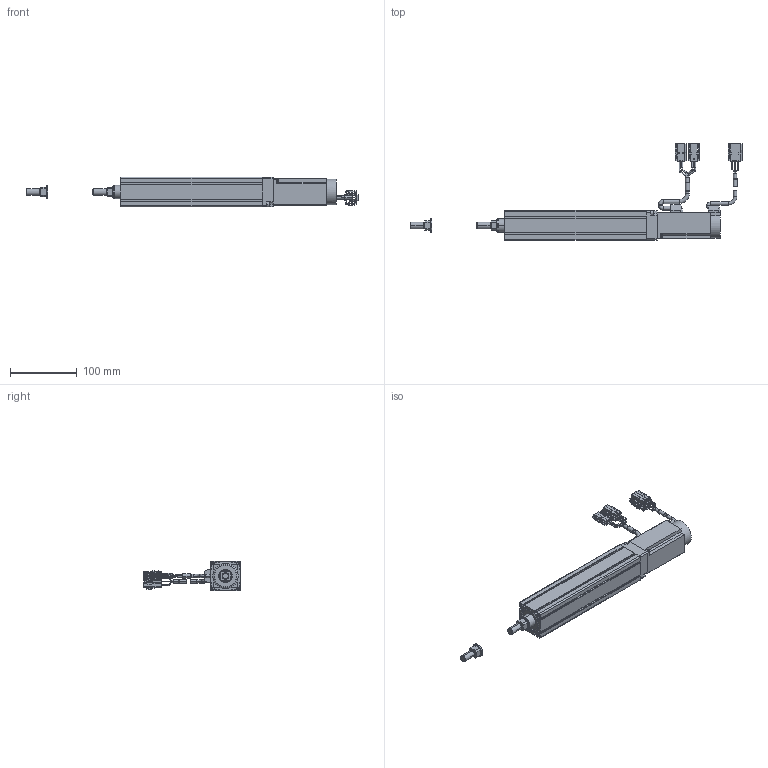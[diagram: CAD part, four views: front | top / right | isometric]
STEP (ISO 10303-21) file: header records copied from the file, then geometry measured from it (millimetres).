
FILE_DESCRIPTION((''),'2;1');
FILE_NAME('BET4D-ST-C_B-10_IGS_PRT','2017-06-18T',(' '),(''),'PRO/ENGINEER BY PARAMETRIC TECHNOLOGY CORPORATION, 2015030','PRO/ENGINEER BY PARAMETRIC TECHNOLOGY CORPORATION, 2015030','');
FILE_SCHEMA(('CONFIG_CONTROL_DESIGN'));
Length unit declared in the file: millimetre
Products named in the file (1): BET4D-ST-C_B-10_IGS_PRT
Bounding box: 499 x 145.7 x 45 mm (x, y, z)
Volume: 478829.5 mm3; surface area: 151830.1 mm2
Topology: 6 solids, 30 shells, 940 faces, 2473 edges, 1597 vertices
Faces by surface type: plane 616, cylinder 234, torus 68, cone 18, sphere 4
Entity records: 29160 total; most frequent: CARTESIAN_POINT 5396, DIRECTION 4933, ORIENTED_EDGE 4874, EDGE_CURVE 2465, VECTOR 1781, LINE 1781, VERTEX_POINT 1597, AXIS2_PLACEMENT_3D 1576
